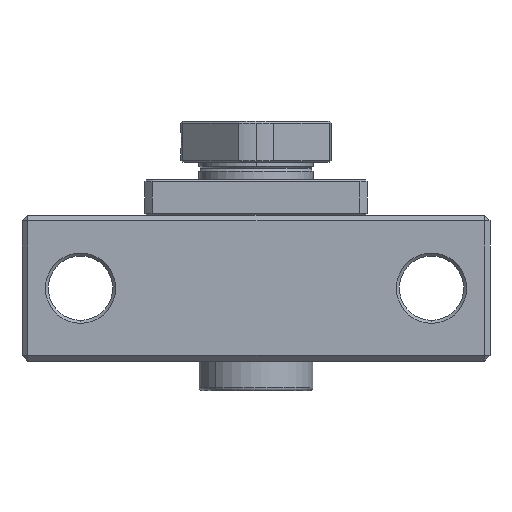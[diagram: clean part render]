
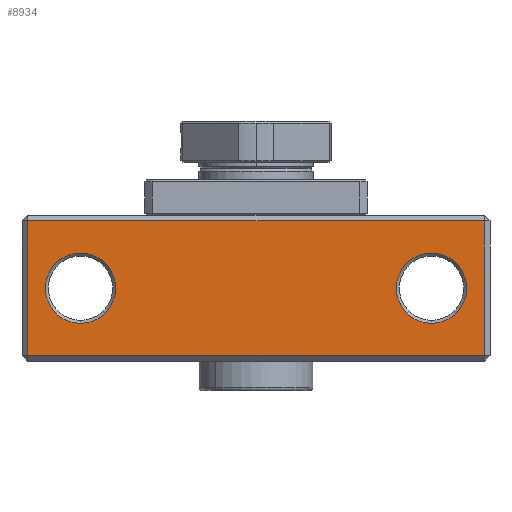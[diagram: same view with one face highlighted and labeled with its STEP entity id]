
A CAD part, front view. The second image highlights one B-rep face of the part: STEP entity #8934.
In plain terms, the highlighted planar face has unit normal (0, -1, 0).
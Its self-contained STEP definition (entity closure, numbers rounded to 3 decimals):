
#251 = LINE ( 'NONE', #10017, #4493 ) ;
#337 = CARTESIAN_POINT ( 'NONE',  ( -30., 0., -6. ) ) ;
#740 = CARTESIAN_POINT ( 'NONE',  ( 30., 0., -6. ) ) ;
#1072 = LINE ( 'NONE', #1466, #7799 ) ;
#1112 = AXIS2_PLACEMENT_3D ( 'NONE', #8060, #8906, #3862 ) ;
#1309 = EDGE_LOOP ( 'NONE', ( #8813, #2239 ) ) ;
#1391 = VERTEX_POINT ( 'NONE', #337 ) ;
#1466 = CARTESIAN_POINT ( 'NONE',  ( -39., 0., 12.5 ) ) ;
#1504 = CARTESIAN_POINT ( 'NONE',  ( -40., 0., -11.5 ) ) ;
#1540 = DIRECTION ( 'NONE',  ( 1., 0., 0. ) ) ;
#1619 = DIRECTION ( 'NONE',  ( -1., 0., 0. ) ) ;
#1690 = CARTESIAN_POINT ( 'NONE',  ( -39., 0., -11.5 ) ) ;
#1742 = VERTEX_POINT ( 'NONE', #8441 ) ;
#1820 = ORIENTED_EDGE ( 'NONE', *, *, #8426, .T. ) ;
#1823 = AXIS2_PLACEMENT_3D ( 'NONE', #4794, #10724, #5641 ) ;
#1871 = AXIS2_PLACEMENT_3D ( 'NONE', #4719, #10651, #5568 ) ;
#2203 = PLANE ( 'NONE',  #1112 ) ;
#2239 = ORIENTED_EDGE ( 'NONE', *, *, #8408, .T. ) ;
#2502 = ORIENTED_EDGE ( 'NONE', *, *, #8563, .T. ) ;
#2853 = VERTEX_POINT ( 'NONE', #6129 ) ;
#3035 = FACE_BOUND ( 'NONE', #6321, .T. ) ;
#3150 = ORIENTED_EDGE ( 'NONE', *, *, #8526, .T. ) ;
#3617 = DIRECTION ( 'NONE',  ( 0., 1., 0. ) ) ;
#3684 = CIRCLE ( 'NONE', #4630, 6. ) ;
#3862 = DIRECTION ( 'NONE',  ( -1., 0., 0. ) ) ;
#4300 = AXIS2_PLACEMENT_3D ( 'NONE', #10004, #4935, #10862 ) ;
#4493 = VECTOR ( 'NONE', #10835, 1000. ) ;
#4543 = ORIENTED_EDGE ( 'NONE', *, *, #8375, .T. ) ;
#4630 = AXIS2_PLACEMENT_3D ( 'NONE', #8657, #3617, #9516 ) ;
#4719 = CARTESIAN_POINT ( 'NONE',  ( -30., 0., 0. ) ) ;
#4794 = CARTESIAN_POINT ( 'NONE',  ( 30., 0., 0. ) ) ;
#4935 = DIRECTION ( 'NONE',  ( 0., 1., 0. ) ) ;
#5568 = DIRECTION ( 'NONE',  ( -1., 0., 0. ) ) ;
#5605 = VERTEX_POINT ( 'NONE', #10758 ) ;
#5641 = DIRECTION ( 'NONE',  ( -1., 0., 0. ) ) ;
#5922 = CARTESIAN_POINT ( 'NONE',  ( -39., 0., 11.5 ) ) ;
#5966 = ORIENTED_EDGE ( 'NONE', *, *, #8496, .T. ) ;
#6129 = CARTESIAN_POINT ( 'NONE',  ( -30., 0., 6. ) ) ;
#6234 = VERTEX_POINT ( 'NONE', #1690 ) ;
#6321 = EDGE_LOOP ( 'NONE', ( #7329, #4543 ) ) ;
#6374 = EDGE_CURVE ( 'NONE', #7675, #10125, #3684, .T. ) ;
#6625 = EDGE_CURVE ( 'NONE', #1391, #2853, #10302, .T. ) ;
#7007 = VECTOR ( 'NONE', #1540, 1000. ) ;
#7329 = ORIENTED_EDGE ( 'NONE', *, *, #6625, .T. ) ;
#7516 = FACE_BOUND ( 'NONE', #1309, .T. ) ;
#7675 = VERTEX_POINT ( 'NONE', #740 ) ;
#7799 = VECTOR ( 'NONE', #8144, 1000. ) ;
#8060 = CARTESIAN_POINT ( 'NONE',  ( -40., 0., 12.5 ) ) ;
#8144 = DIRECTION ( 'NONE',  ( 0., 0., -1. ) ) ;
#8342 = CARTESIAN_POINT ( 'NONE',  ( -40., 0., 11.5 ) ) ;
#8375 = EDGE_CURVE ( 'NONE', #2853, #1391, #10330, .T. ) ;
#8408 = EDGE_CURVE ( 'NONE', #10125, #7675, #9762, .T. ) ;
#8426 = EDGE_CURVE ( 'NONE', #9604, #6234, #1072, .T. ) ;
#8441 = CARTESIAN_POINT ( 'NONE',  ( 39., 0., -11.5 ) ) ;
#8496 = EDGE_CURVE ( 'NONE', #6234, #1742, #9509, .T. ) ;
#8526 = EDGE_CURVE ( 'NONE', #1742, #5605, #251, .T. ) ;
#8563 = EDGE_CURVE ( 'NONE', #5605, #9604, #8959, .T. ) ;
#8657 = CARTESIAN_POINT ( 'NONE',  ( 30., 0., 0. ) ) ;
#8662 = CARTESIAN_POINT ( 'NONE',  ( 30., 0., 6. ) ) ;
#8705 = VECTOR ( 'NONE', #1619, 1000. ) ;
#8813 = ORIENTED_EDGE ( 'NONE', *, *, #6374, .T. ) ;
#8906 = DIRECTION ( 'NONE',  ( 0., 1., 0. ) ) ;
#8934 = ADVANCED_FACE ( 'NONE', ( #3035, #7516, #9750 ), #2203, .F. ) ;
#8959 = LINE ( 'NONE', #8342, #8705 ) ;
#9509 = LINE ( 'NONE', #1504, #7007 ) ;
#9516 = DIRECTION ( 'NONE',  ( -1., 0., 0. ) ) ;
#9604 = VERTEX_POINT ( 'NONE', #5922 ) ;
#9750 = FACE_OUTER_BOUND ( 'NONE', #10672, .T. ) ;
#9762 = CIRCLE ( 'NONE', #1823, 6. ) ;
#10004 = CARTESIAN_POINT ( 'NONE',  ( -30., 0., 0. ) ) ;
#10017 = CARTESIAN_POINT ( 'NONE',  ( 39., 0., 12.5 ) ) ;
#10125 = VERTEX_POINT ( 'NONE', #8662 ) ;
#10302 = CIRCLE ( 'NONE', #4300, 6. ) ;
#10330 = CIRCLE ( 'NONE', #1871, 6. ) ;
#10651 = DIRECTION ( 'NONE',  ( 0., 1., 0. ) ) ;
#10672 = EDGE_LOOP ( 'NONE', ( #1820, #5966, #3150, #2502 ) ) ;
#10724 = DIRECTION ( 'NONE',  ( 0., 1., 0. ) ) ;
#10758 = CARTESIAN_POINT ( 'NONE',  ( 39., 0., 11.5 ) ) ;
#10835 = DIRECTION ( 'NONE',  ( 0., 0., 1. ) ) ;
#10862 = DIRECTION ( 'NONE',  ( -1., 0., 0. ) ) ;
